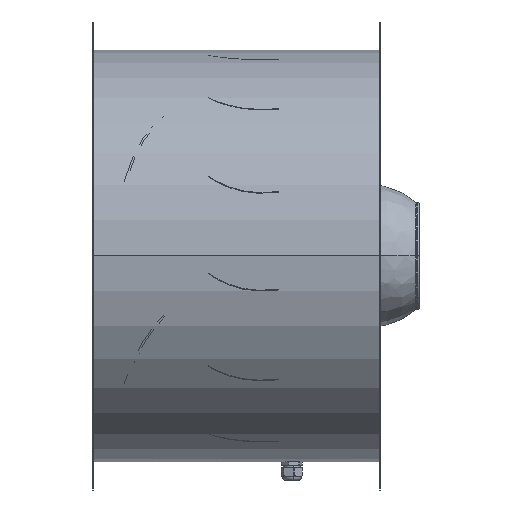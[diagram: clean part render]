
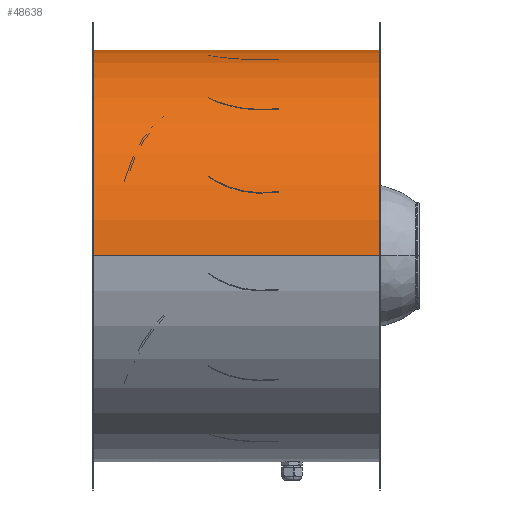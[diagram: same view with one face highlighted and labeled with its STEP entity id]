
A CAD part, top view. The second image highlights one B-rep face of the part: STEP entity #48638.
In plain terms, the highlighted cylindrical face has radius 316.5 mm (diameter 633 mm), a partial arc.
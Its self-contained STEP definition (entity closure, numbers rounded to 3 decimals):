
#8561 = LINE ( 'NONE', #262413, #200128 ) ;
#8999 = CARTESIAN_POINT ( 'NONE',  ( -155.75, 0., 0. ) ) ;
#10428 = CARTESIAN_POINT ( 'NONE',  ( 282., 0., 0. ) ) ;
#14418 = AXIS2_PLACEMENT_3D ( 'NONE', #207269, #492992, #248375 ) ;
#29611 = ORIENTED_EDGE ( 'NONE', *, *, #150095, .F. ) ;
#48638 = ADVANCED_FACE ( 'NONE', ( #186886 ), #174056, .T. ) ;
#50048 = DIRECTION ( 'NONE',  ( 0., 0., 1. ) ) ;
#50184 = EDGE_CURVE ( 'NONE', #521035, #469021, #518903, .T. ) ;
#51473 = DIRECTION ( 'NONE',  ( 0., 0., 1. ) ) ;
#57261 = AXIS2_PLACEMENT_3D ( 'NONE', #461343, #216700, #502392 ) ;
#70357 = ORIENTED_EDGE ( 'NONE', *, *, #82331, .T. ) ;
#73952 = CIRCLE ( 'NONE', #119213, 316.5 ) ;
#82331 = EDGE_CURVE ( 'NONE', #469021, #485976, #200793, .T. ) ;
#86412 = CIRCLE ( 'NONE', #57261, 316.5 ) ;
#95805 = CARTESIAN_POINT ( 'NONE',  ( 282., 0., -316.5 ) ) ;
#104265 = ORIENTED_EDGE ( 'NONE', *, *, #467242, .T. ) ;
#112375 = CARTESIAN_POINT ( 'NONE',  ( -155.75, 0., 316.5 ) ) ;
#115550 = AXIS2_PLACEMENT_3D ( 'NONE', #8999, #294637, #50048 ) ;
#119213 = AXIS2_PLACEMENT_3D ( 'NONE', #10428, #296057, #51473 ) ;
#128221 = VERTEX_POINT ( 'NONE', #321634 ) ;
#139535 = ORIENTED_EDGE ( 'NONE', *, *, #464702, .F. ) ;
#141666 = DIRECTION ( 'NONE',  ( 1., 0., 0. ) ) ;
#150095 = EDGE_CURVE ( 'NONE', #489741, #128221, #160062, .T. ) ;
#159475 = CARTESIAN_POINT ( 'NONE',  ( -155., 0., -316.5 ) ) ;
#160062 = CIRCLE ( 'NONE', #321991, 316.5 ) ;
#174056 = CYLINDRICAL_SURFACE ( 'NONE', #289902, 316.5 ) ;
#179201 = CARTESIAN_POINT ( 'NONE',  ( -155., 3.014, -316.486 ) ) ;
#185306 = DIRECTION ( 'NONE',  ( 1., 0., 0. ) ) ;
#186886 = FACE_OUTER_BOUND ( 'NONE', #437636, .T. ) ;
#188690 = EDGE_CURVE ( 'NONE', #128221, #277506, #324271, .T. ) ;
#194672 = ORIENTED_EDGE ( 'NONE', *, *, #209025, .F. ) ;
#200128 = VECTOR ( 'NONE', #305258, 1000. ) ;
#200793 = LINE ( 'NONE', #392271, #526666 ) ;
#202810 = VECTOR ( 'NONE', #220238, 1000. ) ;
#207269 = CARTESIAN_POINT ( 'NONE',  ( 282., 0., 0. ) ) ;
#209025 = EDGE_CURVE ( 'NONE', #521035, #472560, #353021, .T. ) ;
#210966 = CARTESIAN_POINT ( 'NONE',  ( 282., 3., -316.486 ) ) ;
#216700 = DIRECTION ( 'NONE',  ( 1., 0., 0. ) ) ;
#218352 = DIRECTION ( 'NONE',  ( 1., 0., 0. ) ) ;
#220238 = DIRECTION ( 'NONE',  ( 1., 0., 0. ) ) ;
#234148 = ORIENTED_EDGE ( 'NONE', *, *, #282109, .F. ) ;
#246503 = AXIS2_PLACEMENT_3D ( 'NONE', #429895, #185306, #471011 ) ;
#248375 = DIRECTION ( 'NONE',  ( 0., 0., 1. ) ) ;
#257540 = ORIENTED_EDGE ( 'NONE', *, *, #50184, .T. ) ;
#259429 = CARTESIAN_POINT ( 'NONE',  ( -155., 0., 0. ) ) ;
#262413 = CARTESIAN_POINT ( 'NONE',  ( -155., 0., -316.5 ) ) ;
#277506 = VERTEX_POINT ( 'NONE', #427098 ) ;
#278946 = VERTEX_POINT ( 'NONE', #210966 ) ;
#282109 = EDGE_CURVE ( 'NONE', #472560, #489741, #86412, .T. ) ;
#284482 = VERTEX_POINT ( 'NONE', #95805 ) ;
#284958 = CARTESIAN_POINT ( 'NONE',  ( -155., 3., -316.486 ) ) ;
#289902 = AXIS2_PLACEMENT_3D ( 'NONE', #259429, #218352, #380851 ) ;
#294637 = DIRECTION ( 'NONE',  ( 1., 0., 0. ) ) ;
#295625 = VECTOR ( 'NONE', #486184, 1000. ) ;
#296057 = DIRECTION ( 'NONE',  ( 1., 0., 0. ) ) ;
#299052 = CARTESIAN_POINT ( 'NONE',  ( -155., 0., -316.5 ) ) ;
#305258 = DIRECTION ( 'NONE',  ( 1., 0., 0. ) ) ;
#321634 = CARTESIAN_POINT ( 'NONE',  ( -155., 3.014, -316.486 ) ) ;
#321991 = AXIS2_PLACEMENT_3D ( 'NONE', #386229, #141666, #427305 ) ;
#324271 = LINE ( 'NONE', #179201, #202810 ) ;
#338316 = CARTESIAN_POINT ( 'NONE',  ( 282.75, 0., -316.5 ) ) ;
#342968 = CARTESIAN_POINT ( 'NONE',  ( 282.75, 0., 316.5 ) ) ;
#344803 = ORIENTED_EDGE ( 'NONE', *, *, #383446, .F. ) ;
#353021 = LINE ( 'NONE', #159475, #295625 ) ;
#367891 = CARTESIAN_POINT ( 'NONE',  ( -155.75, 0., -316.5 ) ) ;
#380851 = DIRECTION ( 'NONE',  ( 0., 0., 1. ) ) ;
#383446 = EDGE_CURVE ( 'NONE', #284482, #466290, #8561, .T. ) ;
#386229 = CARTESIAN_POINT ( 'NONE',  ( -155., 0., 0. ) ) ;
#392271 = CARTESIAN_POINT ( 'NONE',  ( -155., 0., 316.5 ) ) ;
#427098 = CARTESIAN_POINT ( 'NONE',  ( 282., 3.014, -316.486 ) ) ;
#427305 = DIRECTION ( 'NONE',  ( 0., 0., 1. ) ) ;
#429895 = CARTESIAN_POINT ( 'NONE',  ( 282.75, 0., 0. ) ) ;
#437636 = EDGE_LOOP ( 'NONE', ( #194672, #257540, #70357, #139535, #344803, #104265, #506923, #481608, #29611, #234148 ) ) ;
#458389 = CIRCLE ( 'NONE', #14418, 316.5 ) ;
#461343 = CARTESIAN_POINT ( 'NONE',  ( -155., 0., 0. ) ) ;
#464702 = EDGE_CURVE ( 'NONE', #466290, #485976, #516280, .T. ) ;
#466290 = VERTEX_POINT ( 'NONE', #338316 ) ;
#467242 = EDGE_CURVE ( 'NONE', #284482, #278946, #458389, .T. ) ;
#469021 = VERTEX_POINT ( 'NONE', #112375 ) ;
#471011 = DIRECTION ( 'NONE',  ( 0., 0., 1. ) ) ;
#472560 = VERTEX_POINT ( 'NONE', #299052 ) ;
#477957 = DIRECTION ( 'NONE',  ( 1., 0., 0. ) ) ;
#481608 = ORIENTED_EDGE ( 'NONE', *, *, #188690, .F. ) ;
#485976 = VERTEX_POINT ( 'NONE', #342968 ) ;
#486184 = DIRECTION ( 'NONE',  ( 1., 0., 0. ) ) ;
#489741 = VERTEX_POINT ( 'NONE', #284958 ) ;
#492992 = DIRECTION ( 'NONE',  ( 1., 0., 0. ) ) ;
#502392 = DIRECTION ( 'NONE',  ( 0., 0., 1. ) ) ;
#506923 = ORIENTED_EDGE ( 'NONE', *, *, #517250, .T. ) ;
#516280 = CIRCLE ( 'NONE', #246503, 316.5 ) ;
#517250 = EDGE_CURVE ( 'NONE', #278946, #277506, #73952, .T. ) ;
#518903 = CIRCLE ( 'NONE', #115550, 316.5 ) ;
#521035 = VERTEX_POINT ( 'NONE', #367891 ) ;
#526666 = VECTOR ( 'NONE', #477957, 1000. ) ;
